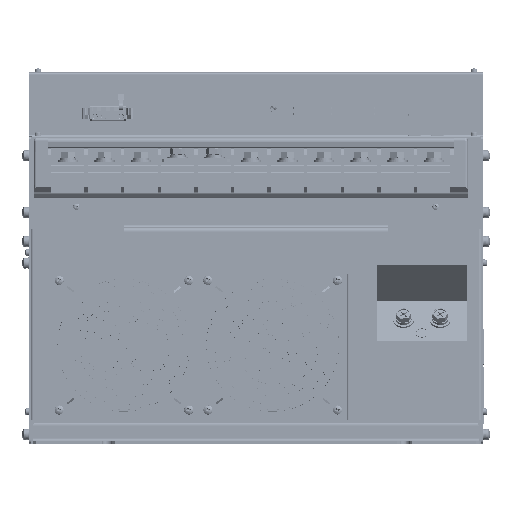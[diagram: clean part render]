
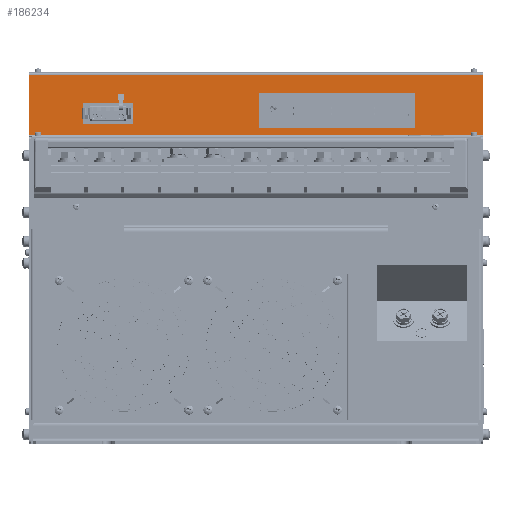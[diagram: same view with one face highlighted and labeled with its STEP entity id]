
A CAD part, front view. The second image highlights one B-rep face of the part: STEP entity #186234.
In plain terms, the highlighted planar face has unit normal (0, -1, 0).
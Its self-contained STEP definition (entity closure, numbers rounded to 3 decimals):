
#8045 = CARTESIAN_POINT ( 'NONE',  ( -198.6, 74.5, 302.4 ) ) ;
#15999 = CARTESIAN_POINT ( 'NONE',  ( 198.6, 74.5, 250. ) ) ;
#23600 = EDGE_LOOP ( 'NONE', ( #170736, #253827, #222419, #336360 ) ) ;
#42476 = LINE ( 'NONE', #185170, #91025 ) ;
#45968 = LINE ( 'NONE', #135897, #51817 ) ;
#49428 = CARTESIAN_POINT ( 'NONE',  ( 198.6, 74.5, 250. ) ) ;
#51817 = VECTOR ( 'NONE', #438557, 1000. ) ;
#51939 = CARTESIAN_POINT ( 'NONE',  ( 139.3, 74.5, 256.2 ) ) ;
#54385 = LINE ( 'NONE', #112124, #459515 ) ;
#63965 = AXIS2_PLACEMENT_3D ( 'NONE', #436902, #322039, #90354 ) ;
#70161 = ORIENTED_EDGE ( 'NONE', *, *, #413732, .F. ) ;
#71145 = DIRECTION ( 'NONE',  ( 1., 0., 0. ) ) ;
#72224 = ORIENTED_EDGE ( 'NONE', *, *, #461719, .F. ) ;
#72862 = ORIENTED_EDGE ( 'NONE', *, *, #119200, .F. ) ;
#75444 = EDGE_CURVE ( 'NONE', #104681, #273763, #54385, .T. ) ;
#76844 = VERTEX_POINT ( 'NONE', #15999 ) ;
#77482 = EDGE_CURVE ( 'NONE', #223864, #104681, #373767, .T. ) ;
#81231 = CARTESIAN_POINT ( 'NONE',  ( -151.6, 74.5, 277.6 ) ) ;
#84265 = VECTOR ( 'NONE', #166411, 1000. ) ;
#84762 = VECTOR ( 'NONE', #485078, 1000. ) ;
#90354 = DIRECTION ( 'NONE',  ( -1., 0., 0. ) ) ;
#91025 = VECTOR ( 'NONE', #154827, 1000. ) ;
#91988 = PLANE ( 'NONE',  #63965 ) ;
#93612 = EDGE_LOOP ( 'NONE', ( #72862, #157403, #70161, #219724 ) ) ;
#102273 = CARTESIAN_POINT ( 'NONE',  ( -151.6, 74.5, 277.6 ) ) ;
#104681 = VERTEX_POINT ( 'NONE', #363637 ) ;
#109607 = CARTESIAN_POINT ( 'NONE',  ( -151.6, 74.5, 277.6 ) ) ;
#112124 = CARTESIAN_POINT ( 'NONE',  ( -107.6, 74.5, 277.6 ) ) ;
#116174 = FACE_BOUND ( 'NONE', #93612, .T. ) ;
#119200 = EDGE_CURVE ( 'NONE', #308613, #162198, #42476, .T. ) ;
#127639 = EDGE_CURVE ( 'NONE', #224083, #436158, #304915, .T. ) ;
#130985 = CARTESIAN_POINT ( 'NONE',  ( 139.3, 74.5, 286.2 ) ) ;
#134847 = EDGE_LOOP ( 'NONE', ( #297767, #72224, #242561, #413023 ) ) ;
#135897 = CARTESIAN_POINT ( 'NONE',  ( 139.3, 74.5, 286.2 ) ) ;
#136010 = VERTEX_POINT ( 'NONE', #51939 ) ;
#140194 = VECTOR ( 'NONE', #233380, 1000. ) ;
#154827 = DIRECTION ( 'NONE',  ( 0., 0., -1. ) ) ;
#156906 = LINE ( 'NONE', #326250, #84762 ) ;
#157403 = ORIENTED_EDGE ( 'NONE', *, *, #301771, .F. ) ;
#158905 = CARTESIAN_POINT ( 'NONE',  ( 2.3, 74.5, 286.2 ) ) ;
#162198 = VERTEX_POINT ( 'NONE', #404052 ) ;
#163822 = LINE ( 'NONE', #421492, #454388 ) ;
#166411 = DIRECTION ( 'NONE',  ( 0., 0., 1. ) ) ;
#170736 = ORIENTED_EDGE ( 'NONE', *, *, #333892, .F. ) ;
#185170 = CARTESIAN_POINT ( 'NONE',  ( 2.3, 74.5, 286.2 ) ) ;
#186234 = ADVANCED_FACE ( 'NONE', ( #364103, #334112, #116174 ), #91988, .T. ) ;
#188149 = EDGE_CURVE ( 'NONE', #162198, #136010, #163822, .T. ) ;
#201462 = VERTEX_POINT ( 'NONE', #109607 ) ;
#208360 = DIRECTION ( 'NONE',  ( 1., 0., 0. ) ) ;
#209654 = LINE ( 'NONE', #102273, #349016 ) ;
#219724 = ORIENTED_EDGE ( 'NONE', *, *, #188149, .F. ) ;
#222419 = ORIENTED_EDGE ( 'NONE', *, *, #75444, .F. ) ;
#223864 = VERTEX_POINT ( 'NONE', #410764 ) ;
#224083 = VERTEX_POINT ( 'NONE', #8045 ) ;
#233380 = DIRECTION ( 'NONE',  ( 0., 0., -1. ) ) ;
#235624 = CARTESIAN_POINT ( 'NONE',  ( 198.6, 74.5, 302.4 ) ) ;
#242561 = ORIENTED_EDGE ( 'NONE', *, *, #499690, .F. ) ;
#248992 = EDGE_CURVE ( 'NONE', #273763, #201462, #209654, .T. ) ;
#253827 = ORIENTED_EDGE ( 'NONE', *, *, #248992, .F. ) ;
#270998 = VECTOR ( 'NONE', #71145, 1000. ) ;
#273763 = VERTEX_POINT ( 'NONE', #289494 ) ;
#277044 = CARTESIAN_POINT ( 'NONE',  ( 198.6, 74.5, 249. ) ) ;
#280377 = DIRECTION ( 'NONE',  ( 0., 0., -1. ) ) ;
#287107 = VERTEX_POINT ( 'NONE', #130985 ) ;
#289494 = CARTESIAN_POINT ( 'NONE',  ( -107.6, 74.5, 277.6 ) ) ;
#291768 = LINE ( 'NONE', #277044, #479630 ) ;
#297767 = ORIENTED_EDGE ( 'NONE', *, *, #347677, .F. ) ;
#301771 = EDGE_CURVE ( 'NONE', #287107, #308613, #156906, .T. ) ;
#303015 = CARTESIAN_POINT ( 'NONE',  ( 198.6, 74.5, 302.4 ) ) ;
#304915 = LINE ( 'NONE', #235624, #395646 ) ;
#308613 = VERTEX_POINT ( 'NONE', #158905 ) ;
#322039 = DIRECTION ( 'NONE',  ( 0., -1., 0. ) ) ;
#322189 = LINE ( 'NONE', #49428, #461354 ) ;
#326250 = CARTESIAN_POINT ( 'NONE',  ( 2.3, 74.5, 286.2 ) ) ;
#333892 = EDGE_CURVE ( 'NONE', #201462, #223864, #352182, .T. ) ;
#334112 = FACE_BOUND ( 'NONE', #23600, .T. ) ;
#336286 = CARTESIAN_POINT ( 'NONE',  ( -198.6, 74.5, 250. ) ) ;
#336360 = ORIENTED_EDGE ( 'NONE', *, *, #77482, .F. ) ;
#347677 = EDGE_CURVE ( 'NONE', #476050, #224083, #392745, .T. ) ;
#349016 = VECTOR ( 'NONE', #413268, 1000. ) ;
#352182 = LINE ( 'NONE', #81231, #140194 ) ;
#363637 = CARTESIAN_POINT ( 'NONE',  ( -107.6, 74.5, 259.6 ) ) ;
#364103 = FACE_OUTER_BOUND ( 'NONE', #134847, .T. ) ;
#373767 = LINE ( 'NONE', #425979, #270998 ) ;
#392745 = LINE ( 'NONE', #436885, #84265 ) ;
#395646 = VECTOR ( 'NONE', #208360, 1000. ) ;
#404052 = CARTESIAN_POINT ( 'NONE',  ( 2.3, 74.5, 256.2 ) ) ;
#410764 = CARTESIAN_POINT ( 'NONE',  ( -151.6, 74.5, 259.6 ) ) ;
#413023 = ORIENTED_EDGE ( 'NONE', *, *, #127639, .F. ) ;
#413268 = DIRECTION ( 'NONE',  ( -1., 0., 0. ) ) ;
#413732 = EDGE_CURVE ( 'NONE', #136010, #287107, #45968, .T. ) ;
#421492 = CARTESIAN_POINT ( 'NONE',  ( 2.3, 74.5, 256.2 ) ) ;
#425979 = CARTESIAN_POINT ( 'NONE',  ( -151.6, 74.5, 259.6 ) ) ;
#436158 = VERTEX_POINT ( 'NONE', #303015 ) ;
#436885 = CARTESIAN_POINT ( 'NONE',  ( -198.6, 74.5, 302.4 ) ) ;
#436902 = CARTESIAN_POINT ( 'NONE',  ( 0., 74.5, 249. ) ) ;
#438557 = DIRECTION ( 'NONE',  ( 0., 0., 1. ) ) ;
#448641 = DIRECTION ( 'NONE',  ( 1., 0., 0. ) ) ;
#454388 = VECTOR ( 'NONE', #448641, 1000. ) ;
#459515 = VECTOR ( 'NONE', #460382, 1000. ) ;
#460382 = DIRECTION ( 'NONE',  ( 0., 0., 1. ) ) ;
#461354 = VECTOR ( 'NONE', #478907, 1000. ) ;
#461719 = EDGE_CURVE ( 'NONE', #76844, #476050, #322189, .T. ) ;
#476050 = VERTEX_POINT ( 'NONE', #336286 ) ;
#478907 = DIRECTION ( 'NONE',  ( -1., 0., 0. ) ) ;
#479630 = VECTOR ( 'NONE', #280377, 1000. ) ;
#485078 = DIRECTION ( 'NONE',  ( -1., 0., 0. ) ) ;
#499690 = EDGE_CURVE ( 'NONE', #436158, #76844, #291768, .T. ) ;
